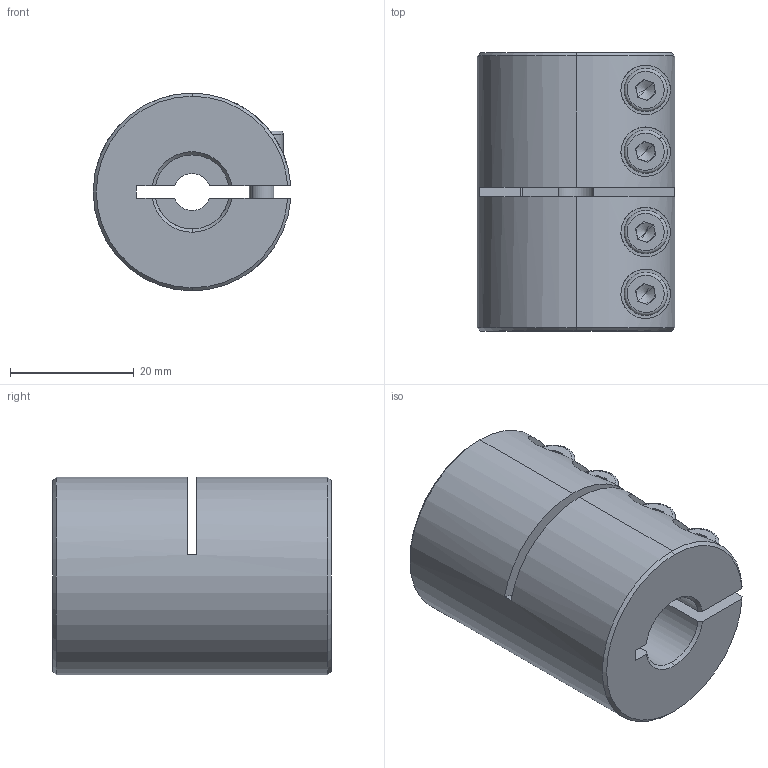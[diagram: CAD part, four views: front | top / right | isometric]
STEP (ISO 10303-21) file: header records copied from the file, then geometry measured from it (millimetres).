
FILE_DESCRIPTION (( 'STEP AP214' ), '1' );
FILE_NAME ('LL-B-D32L45-6-12½¨Ä£.STEP', '2022-07-21T06:44:28', ( '' ), ( '' ), 'SwSTEP 2.0', 'SolidWorks 2022', '' );
FILE_SCHEMA (( 'AUTOMOTIVE_DESIGN' ));
Length unit declared in the file: millimetre
Products named in the file (1): LL-B-D32L45-6-12膘耀
Bounding box: 31.97 x 45 x 32 mm (x, y, z)
Volume: 30480.1 mm3; surface area: 10816.3 mm2
Topology: 1 solids, 1 shells, 193 faces, 492 edges, 309 vertices
Faces by surface type: plane 88, cylinder 77, cone 20, torus 8
Entity records: 6357 total; most frequent: CARTESIAN_POINT 1583, DIRECTION 1037, ORIENTED_EDGE 968, EDGE_CURVE 484, AXIS2_PLACEMENT_3D 403, VERTEX_POINT 309, LINE 231, VECTOR 231
